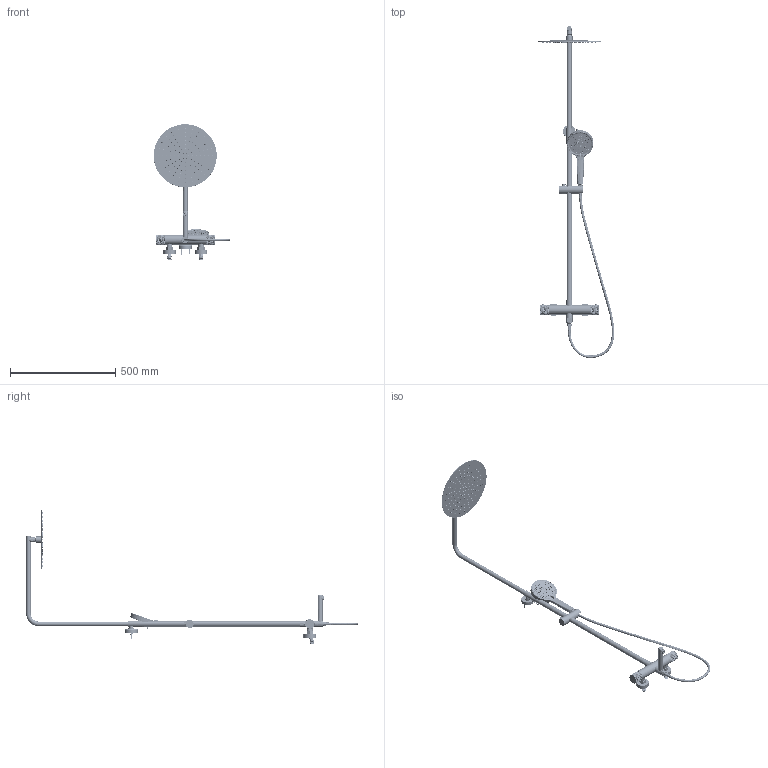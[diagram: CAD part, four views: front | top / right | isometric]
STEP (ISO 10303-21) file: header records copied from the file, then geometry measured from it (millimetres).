
FILE_DESCRIPTION((''),'2;1');
FILE_NAME('PT-739902_ASM','2024-05-07T09:29:26',('GL-JISHU1'),(''),'CREO PARAMETRIC BY PTC INC, 2021063','CREO PARAMETRIC BY PTC INC, 2021063','');
FILE_SCHEMA(('AUTOMOTIVE_DESIGN { 1 0 10303 214 1 1 1 1 }'));
Products named in the file (78): 3ZT-739902-HCR; 3ZT-47115-MAA; 3SJ-001044-MAA; 3FX-001063-MAA; 3SJ-001046-MAA; 3FX-001064-MAA; 4YG-001032-AJJ; 5JT-001180-ACR; 4JT-001211-AJJ; 4SJ-001090-MJJ; 3CX-001045-BAA; 3JQ-001077-NAA; 3JQ-001117-NAA; 3SJ-001045-MAA; 3JQ-001528-NAA; 4SJ-001091-MJJ; 5BS-739902-1-AMB; 5BS-739902-AMB; 4JT-001182-AJJ; 3SJ-001032-MAA; 3JQ-001341-NAA; 3LM-001022-ACR; 3JQ-001386-NAA; 3ZB-001002-KCR; 3QJ-001001-AAA; 3LS-001021-JAA; 3SN-001001-MCR; 3JQ-001529-NAA; 5SN-001013-ACR; 3TH-001001-JAA; 3LS-001742-JAA; 4TT-001062-AJJ; 4SZ-001025-AJJ; 5SZ-001025-ACR_ASM; 5JT-001069-ACR; 3JQ-001095-NAA; 5BS-739902-2-ACR; 5WK-001008-ACR; 3WD-001051-MAA; 3JQ-001530-NAA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
Assembly tree (222 placements, depth 4):
  PT-739902_ASM
    PT-739902-1_ASM
      3ZT-739902-HCR
      3ZT-47115-MAA
      3SJ-001044-MAA
      3FX-001063-MAA
      3SJ-001046-MAA
      3FX-001064-MAA
      4YG-001032-AJJ  x2
      5JT-001180-ACR
      4JT-001211-AJJ
      4SJ-001090-MJJ
      3CX-001045-BAA
      3JQ-001077-NAA  x3
      3JQ-001117-NAA
      3SJ-001045-MAA
      3JQ-001528-NAA  x2
      4SJ-001091-MJJ  x2
      5BS-739902-1-AMB
      5BS-739902-AMB
      4JT-001182-AJJ  x2
      3SJ-001032-MAA  x2
      3JQ-001341-NAA  x2
      3LM-001022-ACR  x2
      3JQ-001386-NAA  x2
      3ZB-001002-KCR  x2
      3QJ-001001-AAA  x2
      3LS-001021-JAA  x2
      3SN-001001-MCR
      3JQ-001529-NAA  x2
      5SN-001013-ACR
      3TH-001001-JAA
      3LS-001742-JAA
      5SZ-001025-ACR_ASM
        4TT-001062-AJJ
        4SZ-001025-AJJ
      5JT-001069-ACR
      3JQ-001095-NAA
      5BS-739902-2-ACR
      WZJ_ASM
        5WK-001008-ACR
        3WD-001051-MAA
        3JQ-001530-NAA
      3LS-001068-JAA  x2
    3WG-001024-JCR_ASM
      739020-01
      739010-QZG_ASM
        739010-02
        739010-03
        739010-04
        739010-05
        3JQ-001113-NAA  x3
        739010-10
      739010-GDZ_ASM
        739010-06
        5TT-001049-ACR
        3SJ-001003-MAA  x2
        3LS-001472-JAA  x2
        3LS-001023-JAA  x2
        3SS-001002-KAA
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Bounding box: 364.25 x 1576.57 x 644.5 mm (x, y, z)
Volume: 1284963.9 mm3; surface area: 1079429.5 mm2
Topology: 222 solids, 231 shells, 26319 faces, 60785 edges, 35681 vertices
Faces by surface type: bspline 11947, cylinder 6385, plane 4078, torus 2290, cone 1528, sphere 75, extrusion 14, revolution 2
Entity records: 1447550 total; most frequent: CARTESIAN_POINT 874883, ORIENTED_EDGE 110458, DIRECTION 60366, EDGE_CURVE 55229, PRESENTATION_STYLE_ASSIGNMENT 39344, STYLED_ITEM 39327, CURVE_STYLE 38387, B_SPLINE_CURVE_WITH_KNOTS 33491
